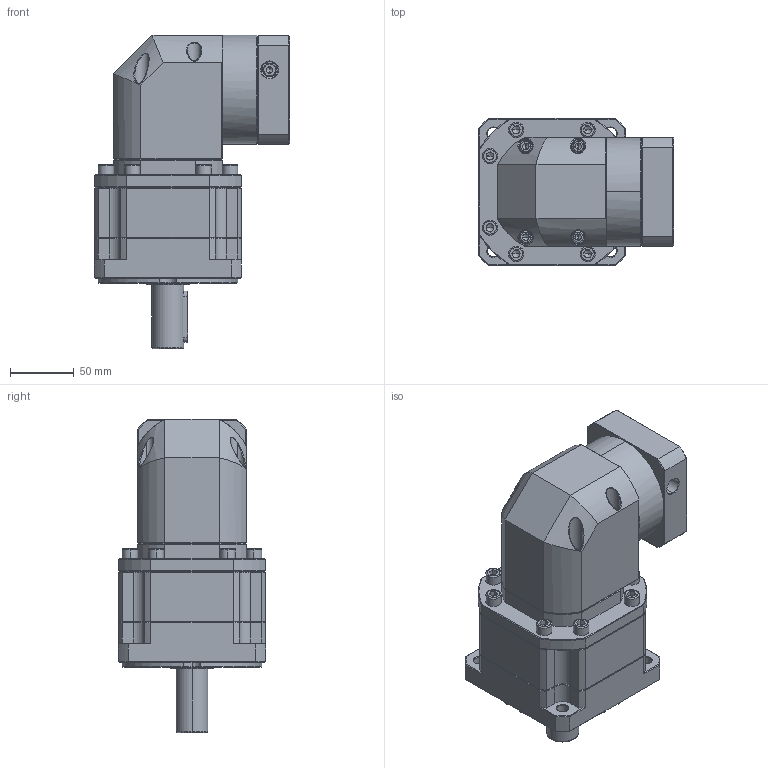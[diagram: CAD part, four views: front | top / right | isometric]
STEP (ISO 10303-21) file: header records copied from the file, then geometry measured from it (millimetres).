
FILE_DESCRIPTION (( 'STEP AP214' ), '1' );
FILE_NAME ('ZB115A-D25-L2-P2-14-50-70-M4.step', '2023-08-26T13:30:12', ( '' ), ( '' ), 'SwSTEP 2.0', 'SolidWorks 2016', '' );
FILE_SCHEMA (( 'AUTOMOTIVE_DESIGN' ));
Length unit declared in the file: millimetre
Products named in the file (1): ZB115A-D25-L2-P2-14-50-70-M4
Bounding box: 152.6 x 115 x 245 mm (x, y, z)
Volume: 1964037.1 mm3; surface area: 175413.6 mm2
Topology: 6 solids, 6 shells, 2443 faces, 6264 edges, 3934 vertices
Faces by surface type: plane 1273, bspline 439, cone 364, cylinder 353, torus 14
Entity records: 121497 total; most frequent: CARTESIAN_POINT 38440, ORIENTED_EDGE 12420, DIRECTION 10197, EDGE_CURVE 6210, VECTOR 4125, LINE 4125, VERTEX_POINT 3934, AXIS2_PLACEMENT_3D 3036
